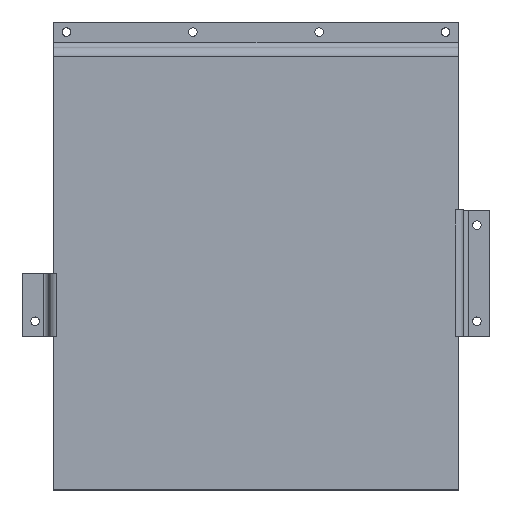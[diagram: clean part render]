
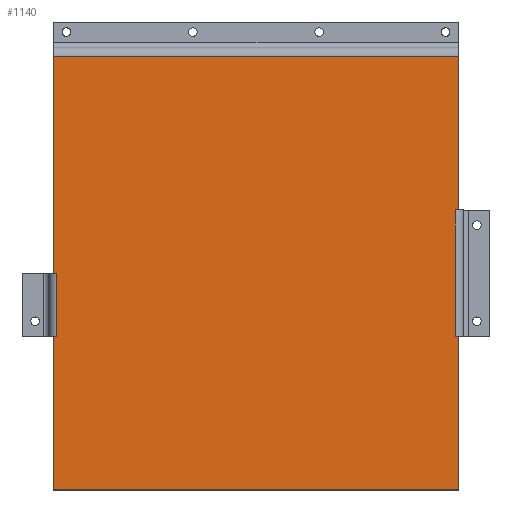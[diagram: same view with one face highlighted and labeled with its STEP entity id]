
A CAD part, top view. The second image highlights one B-rep face of the part: STEP entity #1140.
In plain terms, the highlighted planar face has unit normal (0, 0, 1).
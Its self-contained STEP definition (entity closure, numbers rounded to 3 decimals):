
#197=DIRECTION('',(0.,-1.,0.));
#198=VECTOR('',#197,12.5);
#199=CARTESIAN_POINT('',(0.6,42.9,10.));
#200=LINE('',#199,#198);
#201=DIRECTION('',(-1.,0.,0.));
#202=VECTOR('',#201,0.6);
#203=CARTESIAN_POINT('',(0.6,42.9,10.));
#204=LINE('',#203,#202);
#205=DIRECTION('',(-1.,0.,0.));
#206=VECTOR('',#205,80.);
#207=CARTESIAN_POINT('',(80.,85.7,10.));
#208=LINE('',#207,#206);
#209=DIRECTION('',(0.,1.,0.));
#210=VECTOR('',#209,30.3);
#211=CARTESIAN_POINT('',(80.,55.4,10.));
#212=LINE('',#211,#210);
#213=DIRECTION('',(1.,0.,0.));
#214=VECTOR('',#213,0.6);
#215=CARTESIAN_POINT('',(79.4,55.4,10.));
#216=LINE('',#215,#214);
#217=DIRECTION('',(0.,1.,0.));
#218=VECTOR('',#217,25.);
#219=CARTESIAN_POINT('',(79.4,30.4,10.));
#220=LINE('',#219,#218);
#221=DIRECTION('',(1.,0.,0.));
#222=VECTOR('',#221,0.6);
#223=CARTESIAN_POINT('',(79.4,30.4,10.));
#224=LINE('',#223,#222);
#225=DIRECTION('',(0.,1.,0.));
#226=VECTOR('',#225,30.4);
#227=CARTESIAN_POINT('',(80.,0.,10.));
#228=LINE('',#227,#226);
#229=DIRECTION('',(1.,0.,0.));
#230=VECTOR('',#229,80.);
#231=CARTESIAN_POINT('',(0.,0.,10.));
#232=LINE('',#231,#230);
#233=DIRECTION('',(0.,-1.,0.));
#234=VECTOR('',#233,30.4);
#235=CARTESIAN_POINT('',(0.,30.4,10.));
#236=LINE('',#235,#234);
#237=DIRECTION('',(-1.,0.,0.));
#238=VECTOR('',#237,0.6);
#239=CARTESIAN_POINT('',(0.6,30.4,10.));
#240=LINE('',#239,#238);
#299=DIRECTION('',(0.,-1.,0.));
#300=VECTOR('',#299,42.8);
#301=CARTESIAN_POINT('',(0.,85.7,10.));
#302=LINE('',#301,#300);
#645=CARTESIAN_POINT('',(0.,0.,10.));
#646=CARTESIAN_POINT('',(80.,0.,10.));
#647=VERTEX_POINT('',#645);
#648=VERTEX_POINT('',#646);
#661=CARTESIAN_POINT('',(0.,85.7,10.));
#663=VERTEX_POINT('',#661);
#667=CARTESIAN_POINT('',(80.,85.7,10.));
#668=VERTEX_POINT('',#667);
#813=CARTESIAN_POINT('',(0.6,42.9,10.));
#814=CARTESIAN_POINT('',(0.6,30.4,10.));
#815=VERTEX_POINT('',#813);
#816=VERTEX_POINT('',#814);
#817=CARTESIAN_POINT('',(0.,42.9,10.));
#818=VERTEX_POINT('',#817);
#819=CARTESIAN_POINT('',(0.,30.4,10.));
#820=VERTEX_POINT('',#819);
#829=CARTESIAN_POINT('',(79.4,30.4,10.));
#830=CARTESIAN_POINT('',(79.4,55.4,10.));
#831=VERTEX_POINT('',#829);
#832=VERTEX_POINT('',#830);
#833=CARTESIAN_POINT('',(80.,30.4,10.));
#834=VERTEX_POINT('',#833);
#835=CARTESIAN_POINT('',(80.,55.4,10.));
#836=VERTEX_POINT('',#835);
#1112=CARTESIAN_POINT('',(0.,0.,10.));
#1113=DIRECTION('',(0.,0.,1.));
#1114=DIRECTION('',(1.,0.,0.));
#1115=AXIS2_PLACEMENT_3D('',#1112,#1113,#1114);
#1116=PLANE('',#1115);
#1118=ORIENTED_EDGE('',*,*,#1117,.F.);
#1120=ORIENTED_EDGE('',*,*,#1119,.T.);
#1122=ORIENTED_EDGE('',*,*,#1121,.F.);
#1124=ORIENTED_EDGE('',*,*,#1123,.F.);
#1125=ORIENTED_EDGE('',*,*,#1076,.F.);
#1127=ORIENTED_EDGE('',*,*,#1126,.F.);
#1129=ORIENTED_EDGE('',*,*,#1128,.F.);
#1130=ORIENTED_EDGE('',*,*,#1105,.T.);
#1131=ORIENTED_EDGE('',*,*,#1064,.F.);
#1133=ORIENTED_EDGE('',*,*,#1132,.F.);
#1135=ORIENTED_EDGE('',*,*,#1134,.F.);
#1137=ORIENTED_EDGE('',*,*,#1136,.F.);
#1138=EDGE_LOOP('',(#1118,#1120,#1122,#1124,#1125,#1127,#1129,#1130,#1131,#1133,
#1135,#1137));
#1139=FACE_OUTER_BOUND('',#1138,.F.);
#1140=ADVANCED_FACE('',(#1139),#1116,.T.);
#1064=EDGE_CURVE('',#648,#834,#228,.T.);
#1076=EDGE_CURVE('',#836,#668,#212,.T.);
#1105=EDGE_CURVE('',#831,#834,#224,.T.);
#1117=EDGE_CURVE('',#815,#816,#200,.T.);
#1119=EDGE_CURVE('',#815,#818,#204,.T.);
#1121=EDGE_CURVE('',#663,#818,#302,.T.);
#1123=EDGE_CURVE('',#668,#663,#208,.T.);
#1126=EDGE_CURVE('',#832,#836,#216,.T.);
#1128=EDGE_CURVE('',#831,#832,#220,.T.);
#1132=EDGE_CURVE('',#647,#648,#232,.T.);
#1134=EDGE_CURVE('',#820,#647,#236,.T.);
#1136=EDGE_CURVE('',#816,#820,#240,.T.);
